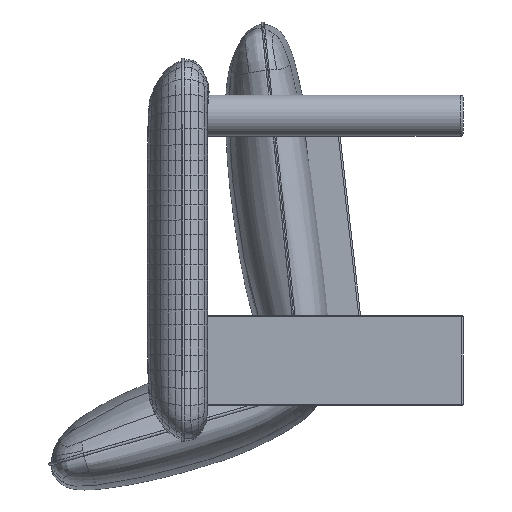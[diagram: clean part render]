
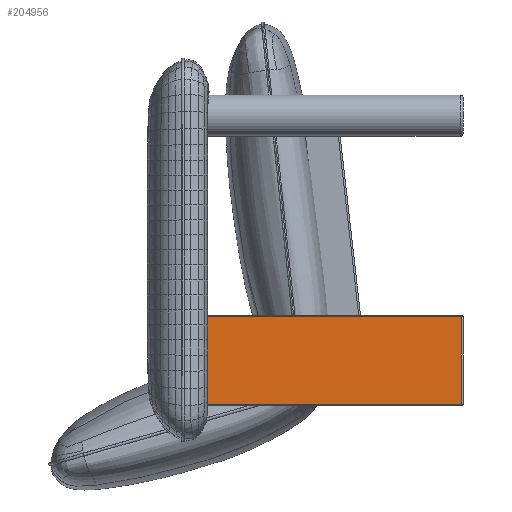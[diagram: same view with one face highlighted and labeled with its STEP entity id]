
A CAD part, left-side view. The second image highlights one B-rep face of the part: STEP entity #204956.
In plain terms, the highlighted planar face has unit normal (-1, 0, 0) as drawn and (1, 0, 0) by its records, which use the part's own axes.
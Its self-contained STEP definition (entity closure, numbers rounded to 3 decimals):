
#35331 = VECTOR ( 'NONE', #580657, 1000. ) ;
#59242 = ORIENTED_EDGE ( 'NONE', *, *, #559136, .T. ) ;
#63864 = VECTOR ( 'NONE', #333214, 1000. ) ;
#72820 = EDGE_CURVE ( 'NONE', #418248, #351910, #181547, .T. ) ;
#93752 = CARTESIAN_POINT ( 'NONE',  ( 325., 3., 477. ) ) ;
#134786 = DIRECTION ( 'NONE',  ( 0., 0., -1. ) ) ;
#166588 = EDGE_LOOP ( 'NONE', ( #351961, #345645, #59242, #414697 ) ) ;
#171095 = VECTOR ( 'NONE', #350305, 1000. ) ;
#173261 = CARTESIAN_POINT ( 'NONE',  ( 325., 582.069, 477. ) ) ;
#181547 = LINE ( 'NONE', #229762, #539540 ) ;
#183022 = DIRECTION ( 'NONE',  ( -1., 0., 0. ) ) ;
#191521 = CARTESIAN_POINT ( 'NONE',  ( 325., 3., 330. ) ) ;
#204956 = ADVANCED_FACE ( 'NONE', ( #375940 ), #502860, .F. ) ;
#214539 = CARTESIAN_POINT ( 'NONE',  ( 325., 430., 330. ) ) ;
#229762 = CARTESIAN_POINT ( 'NONE',  ( 325., 582.069, 333. ) ) ;
#260760 = EDGE_CURVE ( 'NONE', #351910, #300875, #290934, .T. ) ;
#290934 = LINE ( 'NONE', #191521, #63864 ) ;
#300875 = VERTEX_POINT ( 'NONE', #93752 ) ;
#307734 = EDGE_CURVE ( 'NONE', #300875, #450482, #493077, .T. ) ;
#333214 = DIRECTION ( 'NONE',  ( 0., 0., 1. ) ) ;
#345645 = ORIENTED_EDGE ( 'NONE', *, *, #72820, .F. ) ;
#350305 = DIRECTION ( 'NONE',  ( 0., 0., 1. ) ) ;
#351910 = VERTEX_POINT ( 'NONE', #451743 ) ;
#351961 = ORIENTED_EDGE ( 'NONE', *, *, #260760, .F. ) ;
#375940 = FACE_OUTER_BOUND ( 'NONE', #166588, .T. ) ;
#398568 = LINE ( 'NONE', #214539, #171095 ) ;
#413789 = DIRECTION ( 'NONE',  ( 0., -1., 0. ) ) ;
#414697 = ORIENTED_EDGE ( 'NONE', *, *, #307734, .F. ) ;
#418248 = VERTEX_POINT ( 'NONE', #518722 ) ;
#421255 = AXIS2_PLACEMENT_3D ( 'NONE', #548115, #183022, #134786 ) ;
#450482 = VERTEX_POINT ( 'NONE', #478570 ) ;
#451743 = CARTESIAN_POINT ( 'NONE',  ( 325., 3., 333. ) ) ;
#478570 = CARTESIAN_POINT ( 'NONE',  ( 325., 430., 477. ) ) ;
#493077 = LINE ( 'NONE', #173261, #35331 ) ;
#502860 = PLANE ( 'NONE',  #421255 ) ;
#518722 = CARTESIAN_POINT ( 'NONE',  ( 325., 430., 333. ) ) ;
#539540 = VECTOR ( 'NONE', #413789, 1000. ) ;
#548115 = CARTESIAN_POINT ( 'NONE',  ( 325., 582.069, 330. ) ) ;
#559136 = EDGE_CURVE ( 'NONE', #418248, #450482, #398568, .T. ) ;
#580657 = DIRECTION ( 'NONE',  ( 0., 1., 0. ) ) ;
